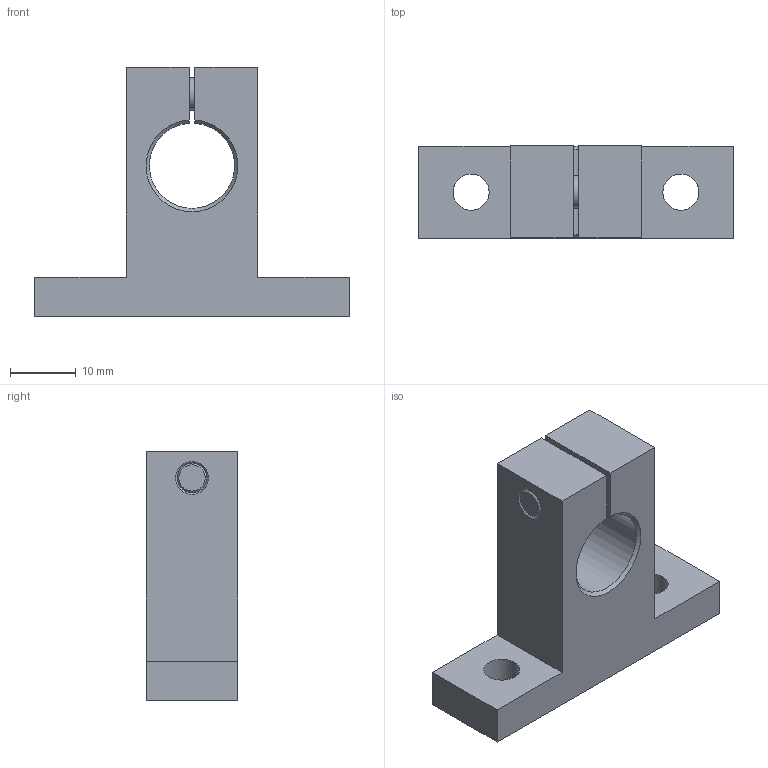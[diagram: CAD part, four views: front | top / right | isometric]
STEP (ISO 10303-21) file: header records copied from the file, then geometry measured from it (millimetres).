
FILE_DESCRIPTION( ( 'Unknown' ), '1' );
FILE_NAME( 'D:/累诀/己绕皋墨飘肺葱胶/11-04-06_档搁累己/04_箕橇飘/SK/SK 13.stp', 'Unknown', ( 'Unknown' ), ( 'Unknown' ), 'PSStep 11.0', 'Unknown', ' ' );
FILE_SCHEMA( ( 'AUTOMOTIVE_DESIGN { 1 0 10303 214 1 1 1 1 }' ) );
Length unit declared in the file: millimetre
Products named in the file (1): 1
Bounding box: 48 x 14 x 38 mm (x, y, z)
Volume: 10742.9 mm3; surface area: 4946.5 mm2
Topology: 1 solids, 1 shells, 38 faces, 93 edges, 62 vertices
Faces by surface type: plane 24, cylinder 8, cone 5, torus 1
Full cylindrical faces by diameter (mm): 2.08 x1, 5 x2, 5.5 x3, 5.61 x1
Entity records: 1368 total; most frequent: CARTESIAN_POINT 188, DIRECTION 174, ORIENTED_EDGE 156, EDGE_CURVE 78, AXIS2_PLACEMENT_3D 61, EDGE_LOOP 60, VERTEX_POINT 59, LINE 52
